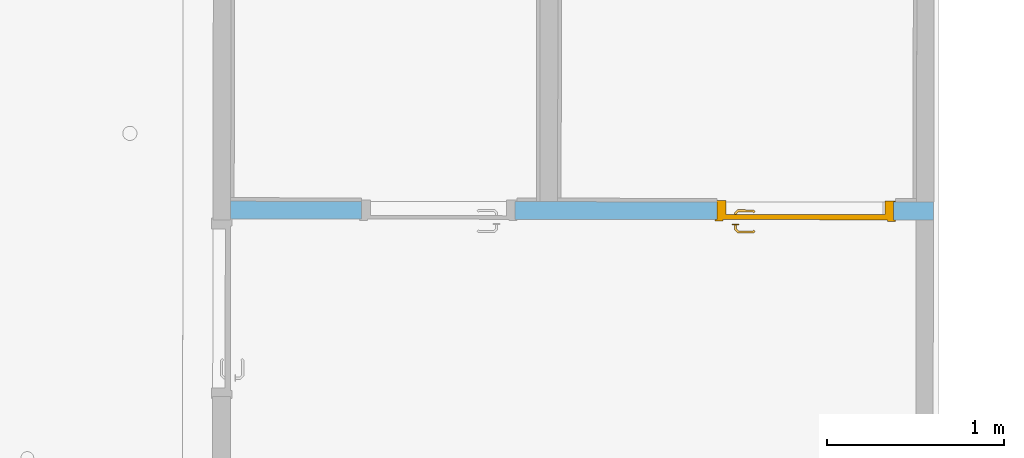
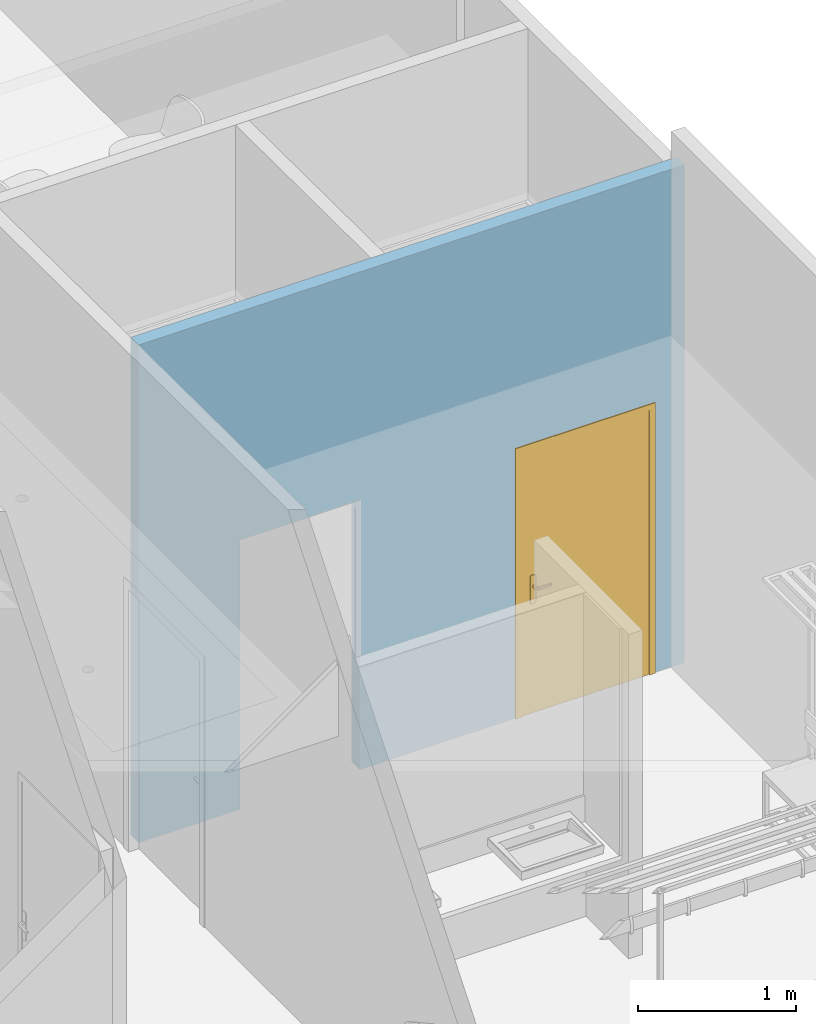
# One storey, part 26 of 43: 1 door, 2 openings, plus 1 element that does not belong to this part.
"""IFC2X3 building model written with IfcOpenShell, lengths in metres."""

from ifc_helpers import new_model, entity, si_unit, converted_unit, derived_unit, direction, frame, frame_2d, origin, place, context, subcontext, project, spatial, polyline, rectangle, outline, extrude, clip, bounded_halfspace, faceted_brep, source, transform, mapped, material, material_list, layer, layer_set, layer_usage, type_object, type_shapes, element, fill, save


model = new_model("IFC2X3")

# Units and contexts
model_context = context("Model", 3, precision=1e-05, world=origin(), true_north=direction((6.123233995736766e-17, 1.0)))
body_context = subcontext(model_context, "Body", "Model", "MODEL_VIEW")
ifc_project = project(units=[si_unit("LENGTHUNIT", "METRE"), si_unit("AREAUNIT", "SQUARE_METRE"), converted_unit("PLANEANGLEUNIT", "DEGREE", entity("IfcPlaneAngleMeasure", 0.017453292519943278), si_unit("PLANEANGLEUNIT", "RADIAN"), dimensions=[0, 0, 0, 0, 0, 0, 0]), derived_unit("THERMALTRANSMITTANCEUNIT", [(si_unit("MASSUNIT", "GRAM", prefix="KILO"), 1), (si_unit("THERMODYNAMICTEMPERATUREUNIT", "KELVIN"), -1), (si_unit("TIMEUNIT", "SECOND"), -3)])], contexts=[model_context])

# Site, building, storey
site_placement = place(None, frame((1253.6752467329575, 2072.143113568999, 91.49999999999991), z_axis=(0.0, 0.0, 1.0), x_axis=(0.7237211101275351, 0.6900925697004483, 0.0)))
site = spatial("IfcSite", under=ifc_project, at=site_placement, Name="Surface", CompositionType="ELEMENT")
building_placement = place(site_placement, origin())
building = spatial("IfcBuilding", under=site, at=building_placement, CompositionType="ELEMENT")
storey_placement = place(building_placement, frame((0.0, 0.0, -4.629999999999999)))
storey = spatial("IfcBuildingStorey", under=building, at=storey_placement, Name="rez de rue -1.10m", CompositionType="ELEMENT", Elevation=-4.629999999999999)

# Wall, openings, door
ifc_material_1 = material(Name="OMD_Cloison 100mm")
ifc_layer = layer(ifc_material_1, 0.1)
ifc_layer_set = layer_set([ifc_layer], Name="Mur de base:Cloison 100mm")
ifc_layer_usage = layer_usage(ifc_layer_set, "AXIS2", "POSITIVE", -0.05)
wall_type = type_object("IfcWallType", Name="Mur de base:Cloison 100mm", PredefinedType="STANDARD", material=ifc_layer_set)
wall_placement = place(storey_placement, frame((175.6110783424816, -7.6016317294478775, 0.0), z_axis=(0.0, 0.0, 1.0), x_axis=(0.7227070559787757, -0.6911544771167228, 0.0)))
wall = element("IfcWallStandardCase", 1, at=wall_placement, inside=storey, type_object=wall_type, material=ifc_layer_usage, Name="Mur de base:Cloison 100mm", ObjectType="Mur de base:Cloison 100mm", context=body_context, shape_type="Clipping", body=[
    clip(extrude(outline(polyline([(0.0, -0.04999999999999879), (3.9769807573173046, -0.04999999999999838), (3.977005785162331, 0.05000000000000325), (3.881052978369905, 0.049999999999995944), (1.8500000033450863, 0.04999999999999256), (1.750000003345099, 0.04999999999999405), (0.0, 0.049999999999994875), (0.0, -0.04999999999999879)])), origin(), (0.0, 0.0, 1.0), 3.8377577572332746), bounded_halfspace(frame((0.0, -0.050000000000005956, 3.8377577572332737), z_axis=(0.0, 0.00890106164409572, 0.9999603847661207), x_axis=(-1.0, 0.0, 0.0)), False, frame((0.0, -0.050000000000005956, 3.8377577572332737)), polyline([(0.0, 0.0), (3.976980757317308, 0.0), (3.9770057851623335, 0.09999999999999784), (3.8810529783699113, 0.10000000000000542), (1.8500000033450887, 0.09999999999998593), (1.7500000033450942, 0.09999999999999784), (0.0, 0.09999999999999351), (0.0, 0.0)]))),
])
opening_1_placement = place(wall_placement, frame((3.7519644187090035, 0.050000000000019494, 0.0)))
opening_1 = element("IfcOpeningElement", 2, at=opening_1_placement, cuts=wall, Name="Grz_porte 1V recouvrement 30°:93x204:1", ObjectType="Opening", context=body_context, shape_type="SweptSolid", body=[
    extrude(rectangle(XDim=2.0749999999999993, YDim=0.999999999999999, at=frame_2d((1.0374999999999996, 0.5000000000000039), x_axis=(1.0, 0.0))), frame((0.0, 0.0, 0.0), z_axis=(0.0, -1.0, 0.0), x_axis=(0.0, 0.0, 1.0)), (0.0, 0.0, 1.0), 0.1),
])
opening_2_placement = place(wall_placement, frame((1.6100000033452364, 0.05000000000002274, 0.0)))
element("IfcOpeningElement", 3, at=opening_2_placement, cuts=wall, Name="Grz_porte 1V recouvrement 30°:80x204:1", ObjectType="Opening", context=body_context, shape_type="SweptSolid", body=[
    extrude(rectangle(XDim=2.0749999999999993, YDim=0.8699999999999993, at=frame_2d((1.0374999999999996, 0.43499999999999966), x_axis=(1.0, 0.0))), frame((0.0, 0.0, 0.0), z_axis=(0.0, -1.0, 0.0), x_axis=(0.0, 0.0, 1.0)), (0.0, 0.0, 1.0), 0.1),
])
ifc_material_2 = material(Name="Porte - Poignée")
ifc_material_3 = material(Name="Porte - Cadre")
ifc_material_4 = material(Name="Porte - Panneau")
ifc_material_list = material_list([ifc_material_2, ifc_material_3, ifc_material_4])
door_style = type_object("IfcDoorStyle", Name="Grz_porte 1V recouvrement 30°:93x204", ConstructionType="NOTDEFINED", OperationType="SINGLE_SWING_RIGHT", ParameterTakesPrecedence=False, Sizeable=False, material=ifc_material_list)
shared_shape = source(origin(), body_context, "Body", "Brep", [
    faceted_brep([(0.1029747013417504, 0.00999999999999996, 0.9922195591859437), (0.10702529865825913, 0.00999999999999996, 0.992219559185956), (0.11100000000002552, 0.00999999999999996, 0.9930000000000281), (0.11100000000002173, 0.00999999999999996, 1.0069999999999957), (0.10702529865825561, 0.00999999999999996, 1.007780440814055), (0.10297470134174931, 0.00999999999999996, 1.0077804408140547), (0.09899999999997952, 0.00999999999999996, 1.0069999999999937), (0.0989999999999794, 0.00999999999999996, 0.9929999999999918), (0.11100000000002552, 0.03248520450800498, 0.9930000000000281), (0.11100000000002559, 0.03248520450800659, 1.0069999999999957), (0.10702529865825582, 0.03413157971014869, 1.007780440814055), (0.12083890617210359, 0.04794518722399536, 1.0077804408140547), (0.1191610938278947, 0.0519957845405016, 1.0077804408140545), (0.10297470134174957, 0.03580939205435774, 1.0077804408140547), (0.21068474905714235, 0.04146731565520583, 1.0077804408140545), (0.21354895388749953, 0.04433152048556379, 1.0077804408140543), (0.20588468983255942, 0.051995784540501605, 1.0077804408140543), (0.20420687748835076, 0.04794518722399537, 1.0077804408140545), (0.09899999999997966, 0.0374557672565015, 1.0069999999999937), (0.09899999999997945, 0.03745576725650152, 0.9929999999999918), (0.10297470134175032, 0.03580939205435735, 0.9922195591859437), (0.11916109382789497, 0.051995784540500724, 0.9922195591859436), (0.12083890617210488, 0.047945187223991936, 0.9922195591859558), (0.10702529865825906, 0.034131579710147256, 0.992219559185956), (0.21354895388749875, 0.044331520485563, 0.9922195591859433), (0.21068474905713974, 0.04146731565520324, 0.9922195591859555), (0.2042068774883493, 0.04794518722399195, 0.9922195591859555), (0.205884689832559, 0.05199578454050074, 0.9922195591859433), (0.122485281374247, 0.04397048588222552, 0.993000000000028), (0.1224852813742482, 0.04397048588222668, 1.0069999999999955), (0.11751471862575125, 0.05597048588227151, 1.0069999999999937), (0.11751471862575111, 0.0559704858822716, 0.9929999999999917), (0.1625228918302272, 0.043970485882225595, 0.9930000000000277), (0.20256050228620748, 0.04397048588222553, 0.9930000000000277), (0.20256050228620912, 0.04397048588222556, 1.0069999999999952), (0.1625228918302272, 0.04397048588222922, 1.0069999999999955), (0.16252289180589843, 0.0501249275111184, 1.007878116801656), (0.20753106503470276, 0.05597048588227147, 1.0069999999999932), (0.16760057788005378, 0.05597048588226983, 1.006999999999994), (0.20753106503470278, 0.055970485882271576, 0.9929999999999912), (0.15744520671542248, 0.05597048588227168, 0.9929999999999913), (0.1625228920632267, 0.050124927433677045, 0.9921218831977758), (0.2078742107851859, 0.038656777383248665, 0.9930000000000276), (0.21635949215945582, 0.0471420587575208, 0.9929999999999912), (0.21635949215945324, 0.047142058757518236, 1.0069999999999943), (0.20787421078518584, 0.0386567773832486, 1.0069999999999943)], [[[0, 1, 2, 3, 4, 5, 6, 7]], [[3, 2, 8, 9]], [[9, 10, 4, 3]], [[10, 11, 12, 13, 5, 4]], [[14, 15, 16, 17]], [[13, 18, 6, 5]], [[7, 6, 18, 19]], [[19, 20, 0, 7]], [[20, 21, 22, 23, 1, 0]], [[24, 25, 26, 27]], [[23, 8, 2, 1]], [[9, 8, 28, 29]], [[29, 11, 10, 9]], [[12, 30, 18, 13]], [[19, 18, 30, 31]], [[31, 21, 20, 19]], [[22, 28, 8, 23]], [[29, 28, 32, 33, 34, 35]], [[11, 35, 36]], [[16, 37, 38]], [[30, 12, 38]], [[38, 12, 36]], [[36, 35, 17]], [[17, 16, 36]], [[35, 11, 29]], [[34, 17, 35]], [[11, 36, 12]], [[38, 36, 16]], [[31, 30, 38, 37, 39, 40]], [[40, 41, 21]], [[41, 40, 27]], [[21, 31, 40]], [[39, 27, 40]], [[41, 32, 22]], [[22, 21, 41]], [[26, 32, 41]], [[28, 22, 32]], [[32, 26, 33]], [[26, 41, 27]], [[42, 25, 24, 43, 44, 15, 14, 45]], [[34, 33, 42, 45]], [[45, 14, 17, 34]], [[15, 44, 37, 16]], [[39, 37, 44, 43]], [[43, 24, 27, 39]], [[25, 42, 33, 26]]]),
    faceted_brep([(0.1029747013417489, -0.030000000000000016, 1.0077804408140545), (0.10702529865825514, -0.030000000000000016, 1.007780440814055), (0.11100000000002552, -0.030000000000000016, 1.0069999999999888), (0.1110000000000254, -0.030000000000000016, 0.9930000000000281), (0.10702529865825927, -0.030000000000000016, 0.992219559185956), (0.10297470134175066, -0.030000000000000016, 0.9922195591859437), (0.09899999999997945, -0.030000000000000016, 0.9929999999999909), (0.09899999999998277, -0.030000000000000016, 1.0069999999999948), (0.09899999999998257, -0.057650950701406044, 1.0069999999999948), (0.1029747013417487, -0.05600457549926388, 1.0077804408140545), (0.11902358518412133, -0.07205345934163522, 1.0077804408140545), (0.12070139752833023, -0.06800286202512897, 1.0077804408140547), (0.10702529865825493, -0.05432676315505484, 1.007780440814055), (0.21352181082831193, -0.06438919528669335, 1.007780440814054), (0.21065760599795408, -0.061524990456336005, 1.0077804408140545), (0.20417973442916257, -0.06800286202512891, 1.0077804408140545), (0.20585754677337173, -0.07205345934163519, 1.007780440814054), (0.11100000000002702, -0.05268038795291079, 1.0069999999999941), (0.11100000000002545, -0.0526803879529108, 0.9930000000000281), (0.10702529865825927, -0.054326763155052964, 0.992219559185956), (0.12070139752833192, -0.06800286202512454, 0.9922195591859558), (0.11902358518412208, -0.07205345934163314, 0.9922195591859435), (0.10297470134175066, -0.05600457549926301, 0.9922195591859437), (0.2106576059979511, -0.06152499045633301, 0.9922195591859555), (0.21352181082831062, -0.06438919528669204, 0.9922195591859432), (0.2058575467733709, -0.07205345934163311, 0.9922195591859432), (0.20417973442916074, -0.06800286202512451, 0.9922195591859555), (0.09899999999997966, -0.057650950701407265, 0.9929999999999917), (0.11737720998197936, -0.0760281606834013, 1.0069999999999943), (0.12234777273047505, -0.06402816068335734, 1.0069999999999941), (0.12234777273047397, -0.0640281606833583, 0.993000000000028), (0.11737720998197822, -0.07602816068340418, 0.9929999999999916), (0.15730769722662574, -0.07602816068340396, 1.0069999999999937), (0.16244056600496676, -0.0701828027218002, 1.0078781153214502), (0.207503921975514, -0.07602816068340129, 1.0069999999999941), (0.16244056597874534, -0.06402816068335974, 1.0069999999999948), (0.20253335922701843, -0.06402816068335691, 1.0069999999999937), (0.20253335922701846, -0.06402816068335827, 0.9930000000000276), (0.1624405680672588, -0.06402816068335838, 0.9930000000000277), (0.1624405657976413, -0.07018280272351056, 0.9921218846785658), (0.20750392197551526, -0.07602816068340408, 0.9929999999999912), (0.1675734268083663, -0.07602816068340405, 0.9929999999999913), (0.20784706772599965, -0.05871445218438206, 1.0069999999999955), (0.21633234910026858, -0.06719973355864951, 1.0069999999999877), (0.2163323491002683, -0.06719973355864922, 0.9929999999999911), (0.20784706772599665, -0.05871445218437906, 0.993000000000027)], [[[0, 1, 2, 3, 4, 5, 6, 7]], [[8, 9, 0, 7]], [[9, 10, 11, 12, 1, 0]], [[13, 14, 15, 16]], [[12, 17, 2, 1]], [[3, 2, 17, 18]], [[18, 19, 4, 3]], [[19, 20, 21, 22, 5, 4]], [[23, 24, 25, 26]], [[22, 27, 6, 5]], [[7, 6, 27, 8]], [[28, 10, 9, 8]], [[11, 29, 17, 12]], [[18, 17, 29, 30]], [[30, 20, 19, 18]], [[21, 31, 27, 22]], [[8, 27, 31, 28]], [[32, 33, 10]], [[33, 32, 16]], [[10, 28, 32]], [[34, 16, 32]], [[33, 35, 11]], [[11, 10, 33]], [[15, 35, 33]], [[29, 11, 35]], [[35, 15, 36]], [[15, 33, 16]], [[29, 35, 36, 37, 38, 30]], [[20, 38, 39]], [[25, 40, 41]], [[31, 21, 41]], [[41, 21, 39]], [[39, 38, 26]], [[26, 25, 39]], [[38, 20, 30]], [[37, 26, 38]], [[20, 39, 21]], [[41, 39, 25]], [[28, 31, 41, 40, 34, 32]], [[42, 14, 13, 43, 44, 24, 23, 45]], [[43, 13, 16, 34]], [[14, 42, 36, 15]], [[37, 36, 42, 45]], [[45, 23, 26, 37]], [[24, 44, 40, 25]], [[34, 40, 44, 43]]]),
    faceted_brep([(0.11535276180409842, 0.004999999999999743, 0.8660039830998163), (0.12499999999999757, 0.004999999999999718, 0.8700000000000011), (0.12499999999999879, 0.004999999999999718, 1.0800000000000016), (0.11535276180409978, 0.004999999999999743, 1.0839960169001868), (0.10499999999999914, 0.004999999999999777, 1.085358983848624), (0.09464723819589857, 0.004999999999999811, 1.0839960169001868), (0.08499999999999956, 0.004999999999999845, 1.0800000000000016), (0.08499999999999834, 0.004999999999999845, 0.8700000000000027), (0.09464723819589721, 0.004999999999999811, 0.8660039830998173), (0.10499999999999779, 0.004999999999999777, 0.8646410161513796), (0.11535276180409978, 0.009999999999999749, 1.0839960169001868), (0.12499999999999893, 0.009999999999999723, 1.0800000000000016), (0.12499999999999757, 0.009999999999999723, 0.8700000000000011), (0.11535276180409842, 0.009999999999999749, 0.8660039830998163), (0.10499999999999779, 0.009999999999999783, 0.8646410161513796), (0.09464723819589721, 0.009999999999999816, 0.8660039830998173), (0.08499999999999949, 0.009999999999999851, 0.870000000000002), (0.08499999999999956, 0.009999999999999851, 1.0800000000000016), (0.09464723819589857, 0.009999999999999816, 1.0839960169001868), (0.10499999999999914, 0.009999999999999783, 1.085358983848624)], [[[0, 1, 2, 3, 4, 5, 6, 7, 8, 9]], [[10, 11, 12, 13, 14, 15, 16, 17, 18, 19]], [[11, 10, 3, 2]], [[3, 10, 19, 4]], [[19, 18, 5, 4]], [[18, 17, 6, 5]], [[7, 6, 17, 16]], [[16, 15, 8, 7]], [[8, 15, 14, 9]], [[14, 13, 0, 9]], [[13, 12, 1, 0]], [[2, 1, 12, 11]]]),
    faceted_brep([(0.1153527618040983, -0.030000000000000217, 0.8660039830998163), (0.1249999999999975, -0.030000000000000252, 0.8700000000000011), (0.12499999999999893, -0.030000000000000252, 1.0800000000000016), (0.11535276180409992, -0.030000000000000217, 1.0839960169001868), (0.10499999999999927, -0.030000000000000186, 1.085358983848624), (0.09464723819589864, -0.03000000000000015, 1.0839960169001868), (0.08499999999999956, -0.030000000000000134, 1.0800000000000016), (0.08499999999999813, -0.030000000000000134, 0.8700000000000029), (0.09464723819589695, -0.03000000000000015, 0.8660039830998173), (0.10499999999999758, -0.030000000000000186, 0.8646410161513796), (0.11535276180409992, -0.025000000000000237, 1.0839960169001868), (0.12499999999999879, -0.025000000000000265, 1.0800000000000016), (0.1249999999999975, -0.025000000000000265, 0.8700000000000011), (0.1153527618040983, -0.025000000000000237, 0.8660039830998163), (0.10499999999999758, -0.025000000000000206, 0.8646410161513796), (0.09464723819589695, -0.02500000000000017, 0.8660039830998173), (0.08499999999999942, -0.025000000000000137, 0.8700000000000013), (0.08499999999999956, -0.025000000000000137, 1.0800000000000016), (0.09464723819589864, -0.02500000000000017, 1.0839960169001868), (0.10499999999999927, -0.025000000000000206, 1.085358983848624)], [[[0, 1, 2, 3, 4, 5, 6, 7, 8, 9]], [[10, 11, 12, 13, 14, 15, 16, 17, 18, 19]], [[16, 15, 8, 7]], [[8, 15, 14, 9]], [[14, 13, 0, 9]], [[13, 12, 1, 0]], [[2, 1, 12, 11]], [[11, 10, 3, 2]], [[3, 10, 19, 4]], [[19, 18, 5, 4]], [[18, 17, 6, 5]], [[7, 6, 17, 16]]]),
    faceted_brep([(0.0, 0.0, 0.0), (0.0, 0.10000000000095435, 0.0), (-0.010000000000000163, 0.10000000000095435, 0.0), (-0.010000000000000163, 0.10800000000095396, 0.0), (0.04999999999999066, 0.10800000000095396, 0.0), (0.04999999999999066, 0.030000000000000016, 0.0), (0.03499999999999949, 0.030000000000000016, 0.0), (0.03499999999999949, -0.008000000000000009, 0.0), (-0.010000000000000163, -0.008000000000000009, 0.0), (-0.010000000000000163, 0.0, 0.0), (0.0, 0.0, 2.0749999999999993), (0.0, 0.10000000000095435, 2.0749999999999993), (1.0, 0.10000000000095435, 2.0749999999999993), (1.0, 0.10000000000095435, 0.0), (1.0099999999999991, 0.10000000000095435, 0.0), (1.0099999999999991, 0.10000000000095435, 2.084999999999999), (-0.010000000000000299, 0.10000000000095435, 2.084999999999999), (-0.010000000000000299, 0.10800000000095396, 2.084999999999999), (1.0099999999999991, 0.10800000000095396, 2.084999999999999), (1.0099999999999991, 0.10800000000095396, 0.0), (0.9500000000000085, 0.10800000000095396, 0.0), (0.9500000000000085, 0.10800000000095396, 2.0250000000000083), (0.049999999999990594, 0.10800000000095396, 2.0250000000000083), (0.049999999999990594, 0.030000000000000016, 2.0250000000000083), (0.9500000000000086, 0.030000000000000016, 2.0250000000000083), (0.9500000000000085, 0.030000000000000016, 0.0), (0.9649999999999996, 0.030000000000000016, 0.0), (0.9649999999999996, 0.030000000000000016, 2.0399999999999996), (0.03499999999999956, 0.030000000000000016, 2.0399999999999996), (0.03499999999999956, -0.008000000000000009, 2.0399999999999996), (0.9649999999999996, -0.008000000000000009, 2.0399999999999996), (0.9649999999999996, -0.008000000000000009, 0.0), (1.0099999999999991, -0.008000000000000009, 0.0), (1.0099999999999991, -0.008000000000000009, 2.084999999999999), (-0.010000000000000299, -0.008000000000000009, 2.084999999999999), (-0.010000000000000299, 0.0, 2.084999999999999), (1.0099999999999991, 0.0, 2.084999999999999), (1.0099999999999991, 0.0, 0.0), (1.0, 0.0, 0.0), (1.0, 0.0, 2.0749999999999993)], [[[0, 1, 2, 3, 4, 5, 6, 7, 8, 9]], [[1, 0, 10, 11]], [[2, 1, 11, 12, 13, 14, 15, 16]], [[3, 2, 16, 17]], [[4, 3, 17, 18, 19, 20, 21, 22]], [[5, 4, 22, 23]], [[6, 5, 23, 24, 25, 26, 27, 28]], [[7, 6, 28, 29]], [[8, 7, 29, 30, 31, 32, 33, 34]], [[9, 8, 34, 35]], [[0, 9, 35, 36, 37, 38, 39, 10]], [[12, 39, 38, 13]], [[38, 37, 32, 31, 26, 25, 20, 19, 14, 13]], [[18, 15, 14, 19]], [[24, 21, 20, 25]], [[30, 27, 26, 31]], [[36, 33, 32, 37]], [[11, 10, 39, 12]], [[17, 16, 15, 18]], [[23, 22, 21, 24]], [[29, 28, 27, 30]], [[35, 34, 33, 36]]]),
    faceted_brep([(0.03499999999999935, 0.0, 2.0399999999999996), (0.03499999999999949, 0.0, 0.0), (0.9649999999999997, 0.0, 0.0), (0.9649999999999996, 0.0, 2.0399999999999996), (0.03499999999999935, 0.030000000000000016, 2.0399999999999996), (0.9649999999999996, 0.030000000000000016, 2.0399999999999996), (0.9649999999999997, 0.030000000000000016, 0.0), (0.03499999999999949, 0.030000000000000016, 0.0)], [[[0, 1, 2, 3]], [[4, 5, 6, 7]], [[1, 0, 4, 7]], [[2, 1, 7, 6]], [[3, 2, 6, 5]], [[0, 3, 5, 4]]]),
])
type_shapes(door_style, [shared_shape])
door_placement = place(opening_1_placement, frame((-1.0, -0.10000000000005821, 0.0)))
door = element("IfcDoor", 4, at=door_placement, inside=storey, type_object=door_style, material=ifc_material_list, Name="Grz_porte 1V recouvrement 30°:93x204", ObjectType="Grz_porte 1V recouvrement 30°:93x204", OverallHeight=2.0749999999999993, OverallWidth=0.9999999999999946, context=body_context, shape_type="MappedRepresentation", body=[
    mapped(shared_shape, transform((0.0, 0.0, 0.0), scale=1.0)),
])
fill(opening_1, door)

save(model, "model.ifc")
